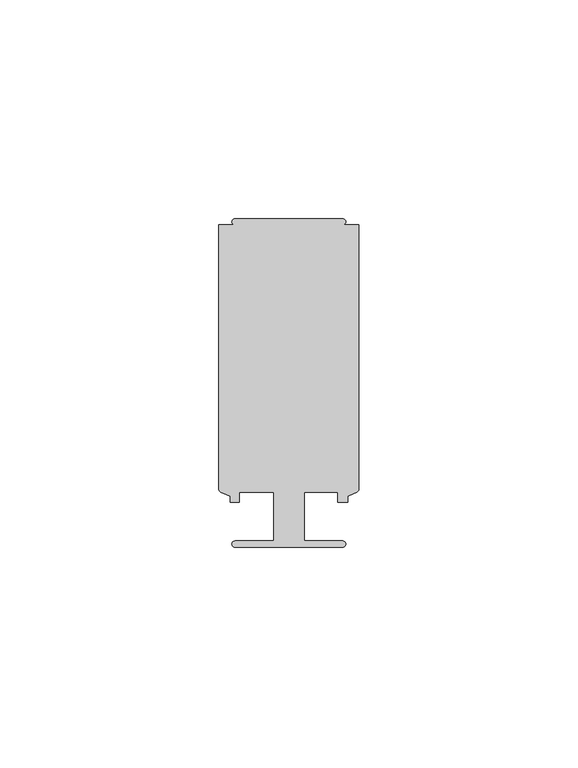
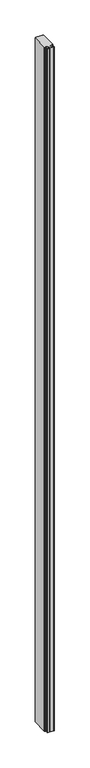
"""IFC4 building model written with IfcOpenShell, lengths in millimetres: member geometry, Прямоугольный импост : 2-AMG-1-Профиль 26Х75 Средний."""

from ifc_helpers import new_model, si_unit, point, frame, frame_2d, origin, place, context, project, spatial, polyline, circle_curve, trimmed, segment, composite_curve, outline, extrude, source, transform, mapped, element, save


def member_f42641c0(model_context):
    return source(origin(), model_context, "Body", "SweptSolid", [
        extrude(outline(composite_curve([segment(polyline([(12.2976562, -37.5), (-12.3023438, -37.5)]), True, "CONTINUOUS"), segment(trimmed(circle_curve(frame_2d((-12.3023438, -36.8)), 0.7), [point((-12.3023438, -37.5))], [point((-12.3023438, -36.1))], False, "CARTESIAN"), True, "CONTINUOUS"), segment(polyline([(-12.3023438, -36.1), (-3.5023438, -36.1), (-3.5023438, -25.0), (-11.2993767, -25.0), (-11.2993767, -27.25), (-13.4493278, -27.25), (-13.4493278, -25.836597), (-15.5219415, -24.9333875)]), True, "CONTINUOUS"), segment(trimmed(circle_curve(frame_2d((-15.2023438, -24.2)), 0.8), [point((-15.5219415, -24.9333875))], [point((-16.0023438, -24.2))], False, "CARTESIAN"), True, "CONTINUOUS"), segment(polyline([(-16.0023438, -24.2), (-16.0023438, 36.1), (-12.3004766, 36.1)]), True, "CONTINUOUS"), segment(trimmed(circle_curve(frame_2d((-12.3004766, 36.8)), 0.7), [point((-12.3004766, 36.1))], [point((-12.3004766, 37.5))], False, "CARTESIAN"), True, "CONTINUOUS"), segment(polyline([(-12.3004766, 37.5), (12.295789, 37.5)]), True, "CONTINUOUS"), segment(trimmed(circle_curve(frame_2d((12.295789, 36.8)), 0.7), [point((12.295789, 37.5))], [point((12.295789, 36.1))], False, "CARTESIAN"), True, "CONTINUOUS"), segment(polyline([(12.295789, 36.1), (15.9976562, 36.1), (15.9976562, -24.2)]), True, "CONTINUOUS"), segment(trimmed(circle_curve(frame_2d((15.1976562, -24.2)), 0.8), [point((15.9976562, -24.2))], [point((15.5172539, -24.9333875))], False, "CARTESIAN"), True, "CONTINUOUS"), segment(polyline([(15.5172539, -24.9333875), (13.4446403, -25.836597), (13.4446403, -27.25), (11.2193767, -27.25), (11.2193767, -25.0), (3.4976562, -25.0), (3.4976562, -36.1), (12.2976562, -36.1)]), True, "CONTINUOUS"), segment(trimmed(circle_curve(frame_2d((12.2976562, -36.8)), 0.7), [point((12.2976562, -36.1))], [point((12.2976562, -37.5))], False, "CARTESIAN"), True, "CONTINUOUS")], self_intersect=False)), frame((0.0, 0.0, -2717.7849139), z_axis=(0.0, 0.0, 1.0), x_axis=(1.0, 0.0, 0.0)), (0.0, 0.0, 1.0), 2717.7849139),
    ])


if __name__ == "__main__":
    model = new_model("IFC4")
    model_context = context("Model", 3, world=origin())
    ifc_project = project(units=[si_unit("LENGTHUNIT", "METRE", prefix="MILLI")], contexts=[model_context])
    site = spatial("IfcSite", under=ifc_project)
    building = spatial("IfcBuilding", under=site)
    placement = place(None, origin())
    member_shape = member_f42641c0(model_context)
    element("IfcMember", 1, ObjectType="Прямоугольный импост : 2-AMG-1-Профиль 26Х75 Средний", at=placement, inside=building, context=model_context, shape_type="MappedRepresentation", body=[
        mapped(member_shape, transform((0.0, 0.0, 0.0), x_axis=(1.0, 0.0, 0.0), y_axis=(0.0, 1.0, 0.0), z_axis=(0.0, 0.0, 1.0))),
    ])
    save(model, "model.ifc")
